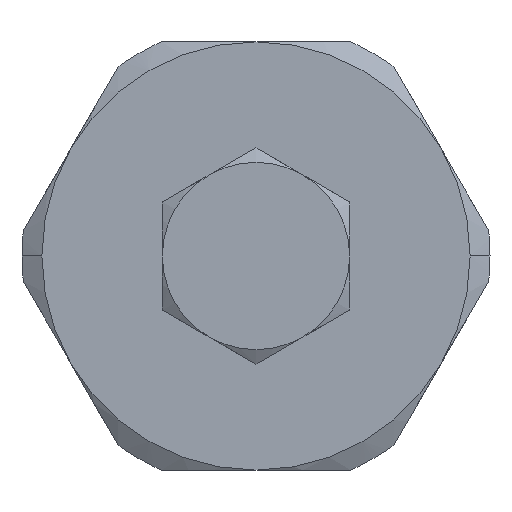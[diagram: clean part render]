
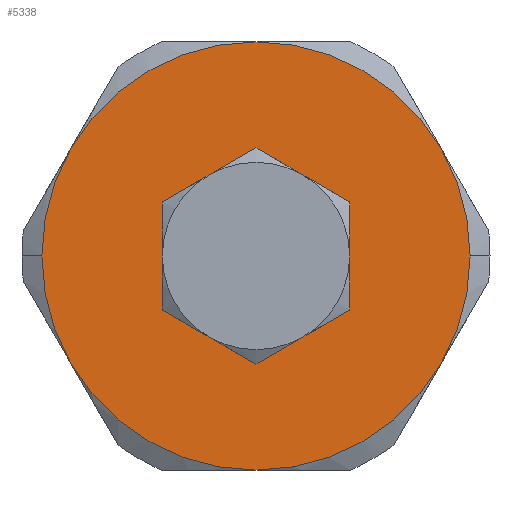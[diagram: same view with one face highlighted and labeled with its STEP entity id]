
A CAD part, left-side view. The second image highlights one B-rep face of the part: STEP entity #5338.
In plain terms, the highlighted planar face has unit normal (-1, 0, 0).
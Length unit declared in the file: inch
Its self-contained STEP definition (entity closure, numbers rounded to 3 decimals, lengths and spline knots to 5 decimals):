
#3724=CARTESIAN_POINT('',(-1.688,-0.5,0.));
#3725=VERTEX_POINT('',#3724);
#3741=CARTESIAN_POINT('',(-1.688,-0.43301,0.25));
#3742=VERTEX_POINT('',#3741);
#3756=CARTESIAN_POINT('',(-1.688,0.0,0.));
#3757=DIRECTION('',(-1.0,0.0,0.0));
#3758=DIRECTION('',(0.0,-1.0,0.0));
#3759=AXIS2_PLACEMENT_3D('',#3756,#3757,#3758);
#3760=CIRCLE('',#3759,0.5);
#3761=EDGE_CURVE('',#3725,#3742,#3760,.T.);
#3771=CARTESIAN_POINT('',(-1.688,0.5,0.));
#3772=VERTEX_POINT('',#3771);
#3779=CARTESIAN_POINT('',(-1.688,0.43301,0.25));
#3780=VERTEX_POINT('',#3779);
#3781=CARTESIAN_POINT('',(-1.688,0.0,0.));
#3782=DIRECTION('',(-1.0,0.0,0.0));
#3783=DIRECTION('',(0.0,-1.0,0.0));
#3784=AXIS2_PLACEMENT_3D('',#3781,#3782,#3783);
#3785=CIRCLE('',#3784,0.5);
#3786=EDGE_CURVE('',#3780,#3772,#3785,.T.);
#5223=CARTESIAN_POINT('',(-1.688,0.,0.));
#5224=DIRECTION('',(1.0,0.0,0.0));
#5225=DIRECTION('',(0.0,0.0,1.0));
#5226=AXIS2_PLACEMENT_3D('',#5223,#5224,#5225);
#5227=PLANE('',#5226);
#5228=CARTESIAN_POINT('',(-1.688,0.43301,-0.25));
#5229=VERTEX_POINT('',#5228);
#5230=CARTESIAN_POINT('',(-1.688,0.,-0.5));
#5231=VERTEX_POINT('',#5230);
#5232=CARTESIAN_POINT('',(-1.688,0.0,0.));
#5233=DIRECTION('',(-1.0,0.0,0.0));
#5234=DIRECTION('',(0.0,-1.0,0.0));
#5235=AXIS2_PLACEMENT_3D('',#5232,#5233,#5234);
#5236=CIRCLE('',#5235,0.5);
#5237=EDGE_CURVE('',#5229,#5231,#5236,.T.);
#5238=ORIENTED_EDGE('',*,*,#5237,.T.);
#5239=CARTESIAN_POINT('',(-1.688,-0.43301,-0.25));
#5240=VERTEX_POINT('',#5239);
#5241=CARTESIAN_POINT('',(-1.688,0.0,0.));
#5242=DIRECTION('',(-1.0,0.0,0.0));
#5243=DIRECTION('',(0.0,-1.0,0.0));
#5244=AXIS2_PLACEMENT_3D('',#5241,#5242,#5243);
#5245=CIRCLE('',#5244,0.5);
#5246=EDGE_CURVE('',#5231,#5240,#5245,.T.);
#5247=ORIENTED_EDGE('',*,*,#5246,.T.);
#5248=CARTESIAN_POINT('',(-1.688,0.0,0.));
#5249=DIRECTION('',(-1.0,0.0,0.0));
#5250=DIRECTION('',(0.0,-1.0,0.0));
#5251=AXIS2_PLACEMENT_3D('',#5248,#5249,#5250);
#5252=CIRCLE('',#5251,0.5);
#5253=EDGE_CURVE('',#5240,#3725,#5252,.T.);
#5254=ORIENTED_EDGE('',*,*,#5253,.T.);
#5255=ORIENTED_EDGE('',*,*,#3761,.T.);
#5256=CARTESIAN_POINT('',(-1.688,0.0,0.5));
#5257=VERTEX_POINT('',#5256);
#5258=CARTESIAN_POINT('',(-1.688,0.0,0.));
#5259=DIRECTION('',(-1.0,0.0,0.0));
#5260=DIRECTION('',(0.0,-1.0,0.0));
#5261=AXIS2_PLACEMENT_3D('',#5258,#5259,#5260);
#5262=CIRCLE('',#5261,0.5);
#5263=EDGE_CURVE('',#3742,#5257,#5262,.T.);
#5264=ORIENTED_EDGE('',*,*,#5263,.T.);
#5265=CARTESIAN_POINT('',(-1.688,0.0,0.));
#5266=DIRECTION('',(-1.0,0.0,0.0));
#5267=DIRECTION('',(0.0,-1.0,0.0));
#5268=AXIS2_PLACEMENT_3D('',#5265,#5266,#5267);
#5269=CIRCLE('',#5268,0.5);
#5270=EDGE_CURVE('',#5257,#3780,#5269,.T.);
#5271=ORIENTED_EDGE('',*,*,#5270,.T.);
#5272=ORIENTED_EDGE('',*,*,#3786,.T.);
#5273=CARTESIAN_POINT('',(-1.688,0.0,0.));
#5274=DIRECTION('',(-1.0,0.0,0.0));
#5275=DIRECTION('',(0.0,-1.0,0.0));
#5276=AXIS2_PLACEMENT_3D('',#5273,#5274,#5275);
#5277=CIRCLE('',#5276,0.5);
#5278=EDGE_CURVE('',#3772,#5229,#5277,.T.);
#5279=ORIENTED_EDGE('',*,*,#5278,.T.);
#5280=EDGE_LOOP('',(#5238,#5247,#5254,#5255,#5264,#5271,#5272,#5279));
#5281=FACE_OUTER_BOUND('',#5280,.T.);
#5282=CARTESIAN_POINT('',(-1.688,-0.10934,0.18937));
#5283=VERTEX_POINT('',#5282);
#5284=CARTESIAN_POINT('',(-1.688,-0.21867,0.));
#5285=VERTEX_POINT('',#5284);
#5286=CARTESIAN_POINT('',(-1.688,0.0,0.));
#5287=DIRECTION('',(1.0,0.0,0.0));
#5288=DIRECTION('',(0.0,-1.0,0.0));
#5289=AXIS2_PLACEMENT_3D('',#5286,#5287,#5288);
#5290=CIRCLE('',#5289,0.21867);
#5291=EDGE_CURVE('',#5283,#5285,#5290,.T.);
#5292=ORIENTED_EDGE('',*,*,#5291,.T.);
#5293=CARTESIAN_POINT('',(-1.688,-0.10934,-0.18938));
#5294=VERTEX_POINT('',#5293);
#5295=CARTESIAN_POINT('',(-1.688,0.0,0.));
#5296=DIRECTION('',(1.0,0.0,0.0));
#5297=DIRECTION('',(0.0,-1.0,0.0));
#5298=AXIS2_PLACEMENT_3D('',#5295,#5296,#5297);
#5299=CIRCLE('',#5298,0.21867);
#5300=EDGE_CURVE('',#5285,#5294,#5299,.T.);
#5301=ORIENTED_EDGE('',*,*,#5300,.T.);
#5302=CARTESIAN_POINT('',(-1.688,0.10934,-0.18937));
#5303=VERTEX_POINT('',#5302);
#5304=CARTESIAN_POINT('',(-1.688,0.0,0.));
#5305=DIRECTION('',(1.0,0.0,0.0));
#5306=DIRECTION('',(0.0,-1.0,0.0));
#5307=AXIS2_PLACEMENT_3D('',#5304,#5305,#5306);
#5308=CIRCLE('',#5307,0.21867);
#5309=EDGE_CURVE('',#5294,#5303,#5308,.T.);
#5310=ORIENTED_EDGE('',*,*,#5309,.T.);
#5311=CARTESIAN_POINT('',(-1.688,0.21867,0.));
#5312=VERTEX_POINT('',#5311);
#5313=CARTESIAN_POINT('',(-1.688,0.0,0.));
#5314=DIRECTION('',(1.0,0.0,0.0));
#5315=DIRECTION('',(0.0,-1.0,0.0));
#5316=AXIS2_PLACEMENT_3D('',#5313,#5314,#5315);
#5317=CIRCLE('',#5316,0.21867);
#5318=EDGE_CURVE('',#5303,#5312,#5317,.T.);
#5319=ORIENTED_EDGE('',*,*,#5318,.T.);
#5320=CARTESIAN_POINT('',(-1.688,0.10934,0.18938));
#5321=VERTEX_POINT('',#5320);
#5322=CARTESIAN_POINT('',(-1.688,0.0,0.));
#5323=DIRECTION('',(1.0,0.0,0.0));
#5324=DIRECTION('',(0.0,-1.0,0.0));
#5325=AXIS2_PLACEMENT_3D('',#5322,#5323,#5324);
#5326=CIRCLE('',#5325,0.21867);
#5327=EDGE_CURVE('',#5312,#5321,#5326,.T.);
#5328=ORIENTED_EDGE('',*,*,#5327,.T.);
#5329=CARTESIAN_POINT('',(-1.688,0.0,0.));
#5330=DIRECTION('',(1.0,0.0,0.0));
#5331=DIRECTION('',(0.0,-1.0,0.0));
#5332=AXIS2_PLACEMENT_3D('',#5329,#5330,#5331);
#5333=CIRCLE('',#5332,0.21867);
#5334=EDGE_CURVE('',#5321,#5283,#5333,.T.);
#5335=ORIENTED_EDGE('',*,*,#5334,.T.);
#5336=EDGE_LOOP('',(#5292,#5301,#5310,#5319,#5328,#5335));
#5337=FACE_BOUND('',#5336,.T.);
#5338=ADVANCED_FACE('',(#5281,#5337),#5227,.F.);
